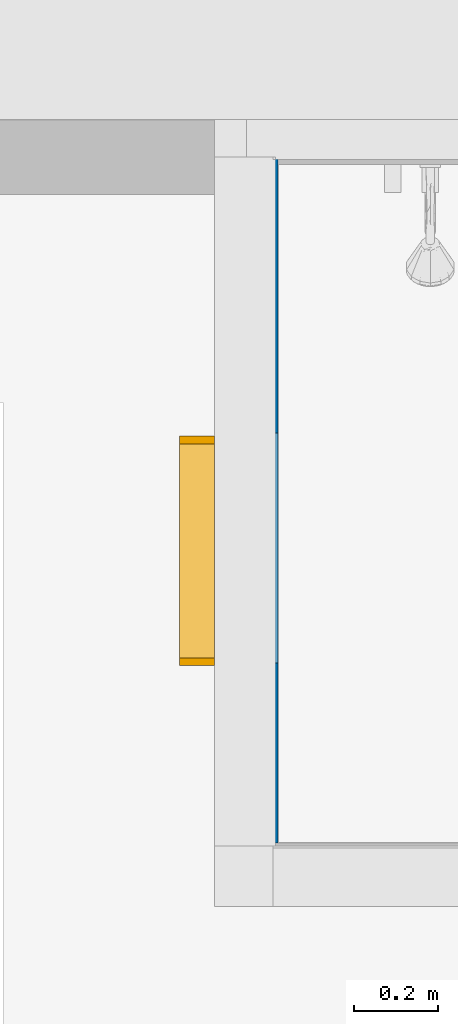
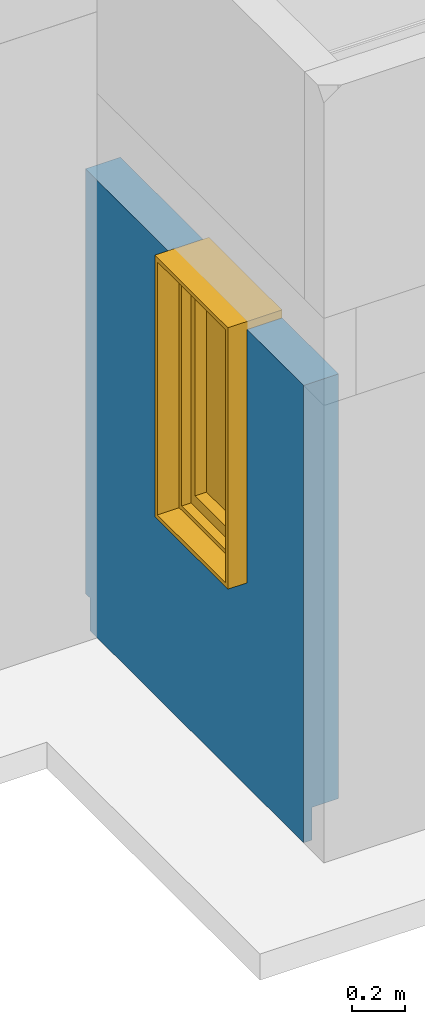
# One storey, part 4 of 10: 1 wall, 1 window, 1 opening.
"""IFC2X3 building model written with IfcOpenShell, lengths in metres."""

import ifcopenshell
import ifcopenshell.guid

model = None  # the IFC model being written
_history = None  # IfcOwnerHistory: only IFC2X3 demands one
_inside = {}  # id of a spatial element -> (the spatial element, [elements in it])
_under = {}  # id of a project, library or spatial element -> (it, [spatial elements below it])
_declared = {}  # id of a project -> (the project, [libraries it declares])
_typed = {}  # id of a type object -> (the type object, [elements of that type])
_made_of = {}  # id of a material, layer set ... -> (it, [elements and type objects made of it])


def new_model(schema):
    """Start an empty IFC model of exactly this schema.

    Asked for "IFC4X3", IfcOpenShell would pick the latest addendum, in which some entities
    have other attributes; the version numbers below select the first issue.
    IFC2X3 requires an IfcOwnerHistory on every rooted entity: one is made here for all.
    """
    global model, _history
    if schema == "IFC4X3":
        model = ifcopenshell.file(schema_version=(4, 3, 0, 0))
    else:
        model = ifcopenshell.file(schema=schema)
    _inside.clear()
    _under.clear()
    _declared.clear()
    _typed.clear()
    _made_of.clear()
    _history = None
    if model.schema == "IFC2X3":
        org = make("IfcOrganization", Name="unknown")
        user = make(
            "IfcPersonAndOrganization",
            ThePerson=make("IfcPerson", FamilyName="unknown"),
            TheOrganization=org,
        )
        app = make(
            "IfcApplication",
            ApplicationDeveloper=org,
            Version="unknown",
            ApplicationFullName="unknown",
            ApplicationIdentifier="unknown",
        )
        _history = make(
            "IfcOwnerHistory",
            OwningUser=user,
            OwningApplication=app,
            ChangeAction="ADDED",
            CreationDate=0,
        )
    return model


def make(cls, **values):
    """One entity of the class cls with the attributes given. An attribute that is None is left unset."""
    return model.create_entity(
        cls, **{name: value for name, value in values.items() if value is not None}
    )


def entity(cls, *values):
    """Any entity or typed value of the class cls, its attributes in the order of the schema. None: left unset."""
    e = model.create_entity(cls)
    for i, value in enumerate(values):
        if value is not None:
            e[i] = value
    return e


def rooted(cls, **values):
    """An entity with a GlobalId (a new one), such as an element, a storey or a relation."""
    return make(cls, GlobalId=ifcopenshell.guid.new(), OwnerHistory=_history, **values)


def si_unit(unit_type, name, prefix=None):
    """IfcSIUnit, for example si_unit("LENGTHUNIT", "METRE", prefix="MILLI")."""
    return make("IfcSIUnit", UnitType=unit_type, Prefix=prefix, Name=name)


def converted_unit(unit_type, name, factor, base, dimensions=None, offset=None):
    """IfcConversionBasedUnit, such as the inch: factor (a typed value) times the base unit."""
    return make(
        "IfcConversionBasedUnit"
        if offset is None
        else "IfcConversionBasedUnitWithOffset",
        ConversionOffset=offset,
        Dimensions=None
        if dimensions is None
        else entity("IfcDimensionalExponents", *dimensions),
        UnitType=unit_type,
        Name=name,
        ConversionFactor=make(
            "IfcMeasureWithUnit", ValueComponent=factor, UnitComponent=base
        ),
    )


def derived_unit(unit_type, elements):
    """IfcDerivedUnit: a product of units, each with its exponent."""
    return make(
        "IfcDerivedUnit",
        Elements=[
            make("IfcDerivedUnitElement", Unit=unit, Exponent=power)
            for unit, power in elements
        ],
        UnitType=unit_type,
    )


def assignment(units):
    """IfcUnitAssignment: the units of a project."""
    return None if units is None else make("IfcUnitAssignment", Units=units)


def point(xyz):
    """IfcCartesianPoint."""
    return None if xyz is None else make("IfcCartesianPoint", Coordinates=xyz)


def direction(xyz):
    """IfcDirection."""
    return None if xyz is None else make("IfcDirection", DirectionRatios=xyz)


def frame(location, z_axis=None, x_axis=None):
    """IfcAxis2Placement3D, a coordinate frame: its origin and axes. An axis left out is left unset."""
    return make(
        "IfcAxis2Placement3D",
        Location=point(location),
        Axis=direction(z_axis),
        RefDirection=direction(x_axis),
    )


def frame_2d(location, x_axis=None):
    """IfcAxis2Placement2D, a coordinate frame in the plane: its origin and x axis."""
    return make(
        "IfcAxis2Placement2D", Location=point(location), RefDirection=direction(x_axis)
    )


def origin():
    """The frame at (0, 0, 0) with its axes left unset."""
    return frame((0.0, 0.0, 0.0))


def place(relative_to, where):
    """IfcLocalPlacement: puts the frame where relative to a parent placement (None: the world)."""
    return make(
        "IfcLocalPlacement", PlacementRelTo=relative_to, RelativePlacement=where
    )


def context(
    kind, dimensions, precision=None, world=None, true_north=None, identifier=None
):
    """IfcGeometricRepresentationContext, for example the 3D "Model" context."""
    return make(
        "IfcGeometricRepresentationContext",
        ContextIdentifier=identifier,
        ContextType=kind,
        CoordinateSpaceDimension=dimensions,
        Precision=precision,
        WorldCoordinateSystem=world,
        TrueNorth=true_north,
    )


def subcontext(parent, identifier, kind, view, scale=None):
    """IfcGeometricRepresentationSubContext, for example "Body" below "Model"."""
    return make(
        "IfcGeometricRepresentationSubContext",
        ContextIdentifier=identifier,
        ContextType=kind,
        ParentContext=parent,
        TargetScale=scale,
        TargetView=view,
    )


def project(units=None, contexts=None):
    """IfcProject with its units and contexts."""
    return rooted(
        "IfcProject",
        Name="project",
        RepresentationContexts=contexts,
        UnitsInContext=assignment(units),
    )


def spatial(cls, under=None, at=None, **own):
    """A site, building, storey or space (cls), placed at a placement, below another one or the project."""
    s = rooted(cls, ObjectPlacement=at, **own)
    if under is not None:
        _under.setdefault(under.id(), (under, []))[1].append(s)
    return s


def profile(cls, at=None, kind="AREA", **sizes):
    """A parametric profile (cls). Its sizes go by their IFC names, for example OverallWidth=200.0."""
    return make(cls, ProfileType=kind, Position=at, **sizes)


def rectangle(**sizes):
    """IfcRectangleProfileDef."""
    return profile("IfcRectangleProfileDef", **sizes)


def extrude(swept, where, along, depth):
    """IfcExtrudedAreaSolid: the profile swept, set in the frame where, extruded along a direction by depth."""
    return make(
        "IfcExtrudedAreaSolid",
        SweptArea=swept,
        Position=where,
        ExtrudedDirection=direction(along),
        Depth=depth,
    )


def faces_of(points, faces, orient=None, outer=None):
    """IfcFace entities. A face is a list of loops; a loop is a list of indices into points, from 0.

    orient and outer hold one flag for each loop. By default every Orientation is true, the
    first loop of a face is its IfcFaceOuterBound and the others are IfcFaceBound.
    """
    made = []
    for i, loops in enumerate(faces):
        bounds = []
        for j, loop in enumerate(loops):
            is_outer = j == 0 if outer is None else outer[i][j]
            bounds.append(
                make(
                    "IfcFaceOuterBound" if is_outer else "IfcFaceBound",
                    Bound=make("IfcPolyLoop", Polygon=[points[k] for k in loop]),
                    Orientation=True if orient is None else orient[i][j],
                )
            )
        made.append(make("IfcFace", Bounds=bounds))
    return made


def faceted_brep(points, faces, orient=None, outer=None, voids=None):
    """IfcFacetedBrep: a solid bounded by flat faces; with voids (closed shells), ...WithVoids."""
    shared = [point(p) for p in points]
    hull = make("IfcClosedShell", CfsFaces=faces_of(shared, faces, orient, outer))
    if voids is None:
        return make("IfcFacetedBrep", Outer=hull)
    return make(
        "IfcFacetedBrepWithVoids",
        Outer=hull,
        Voids=[
            make(cls, CfsFaces=faces_of(shared, fs, o, b)) for cls, fs, o, b in voids
        ],
    )


def shape(context_of_items, identifier, shape_type, items):
    """IfcShapeRepresentation: the items that make up one representation, for example the "Body"."""
    return make(
        "IfcShapeRepresentation",
        ContextOfItems=context_of_items,
        RepresentationIdentifier=identifier,
        RepresentationType=shape_type,
        Items=items,
    )


def source(mapping_origin, context_of_items, identifier, shape_type, items):
    """IfcRepresentationMap: a shape defined once, which mapped items show again and again."""
    return make(
        "IfcRepresentationMap",
        MappingOrigin=mapping_origin,
        MappedRepresentation=shape(context_of_items, identifier, shape_type, items),
    )


def transform(
    local_origin,
    x_axis=None,
    y_axis=None,
    z_axis=None,
    scale=None,
    scale2=None,
    scale3=None,
    uniform=True,
):
    """IfcCartesianTransformationOperator3D, or its non-uniform kind. x_axis, y_axis, z_axis: its Axis1, 2, 3."""
    if uniform:
        return make(
            "IfcCartesianTransformationOperator3D",
            Axis1=direction(x_axis),
            Axis2=direction(y_axis),
            LocalOrigin=point(local_origin),
            Scale=scale,
            Axis3=direction(z_axis),
        )
    return make(
        "IfcCartesianTransformationOperator3DnonUniform",
        Axis1=direction(x_axis),
        Axis2=direction(y_axis),
        LocalOrigin=point(local_origin),
        Scale=scale,
        Axis3=direction(z_axis),
        Scale2=scale2,
        Scale3=scale3,
    )


def mapped(mapping_source, mapping_target):
    """IfcMappedItem: shows the shape of a source again, moved by a transform."""
    return make(
        "IfcMappedItem", MappingSource=mapping_source, MappingTarget=mapping_target
    )


def material(Name=None, Category=None):
    """IfcMaterial."""
    return make("IfcMaterial", Name=Name, Category=Category)


def material_list(materials):
    """IfcMaterialList."""
    return make("IfcMaterialList", Materials=materials)


def layer(
    of_material, thickness, ventilated=None, Name=None, Category=None, Priority=None
):
    """IfcMaterialLayer: one layer of a wall or slab, of a material (None: an air gap)."""
    return make(
        "IfcMaterialLayer",
        Material=of_material,
        LayerThickness=thickness,
        IsVentilated=ventilated,
        Name=Name,
        Category=Category,
        Priority=Priority,
    )


def layer_set(layers, Name=None):
    """IfcMaterialLayerSet."""
    return make("IfcMaterialLayerSet", MaterialLayers=layers, LayerSetName=Name)


def made_of(thing, what):
    """Note that an element or type object is made of a material, layer set ...; save() writes the relation."""
    if what is not None:
        _made_of.setdefault(what.id(), (what, []))[1].append(thing)
    return thing


def type_object(cls, material=None, **own):
    """A type object (cls), such as IfcWallType, which elements share."""
    return made_of(rooted(cls, **own), material)


def type_shapes(of_type, sources):
    """Give a type object the sources (RepresentationMaps) that its elements show as mapped items."""
    of_type.RepresentationMaps = sources


def element(
    cls,
    number,
    at=None,
    inside=None,
    cuts=None,
    type_object=None,
    material=None,
    context=None,
    identifier="Body",
    shape_type=None,
    held_by="IfcProductDefinitionShape",
    body=None,
    shapes=None,
    **own,
):
    """One element of the class cls, such as IfcWall. Its Tag is "e" and its number.

    at: its placement. inside: the storey or other place that contains it. cuts: it is an
    opening in that element (IfcRelVoidsElement). A single representation is given by context,
    identifier, shape_type and body (its items); several are given by shapes. held_by: the class
    of the entity that holds the representations. save() writes the other relations.
    """
    e = rooted(cls, Tag="e%d" % number, ObjectPlacement=at, **own)
    if body is not None:
        shapes = [shape(context, identifier, shape_type, body)]
    if shapes is not None:
        e.Representation = make(held_by, Representations=shapes)
    if inside is not None:
        _inside.setdefault(inside.id(), (inside, []))[1].append(e)
    if cuts is not None:
        rooted(
            "IfcRelVoidsElement", RelatingBuildingElement=cuts, RelatedOpeningElement=e
        )
    if type_object is not None:
        _typed.setdefault(type_object.id(), (type_object, []))[1].append(e)
    return made_of(e, material)


def fill(opening, filler):
    """IfcRelFillsElement: the door or window that sits in an opening."""
    return rooted(
        "IfcRelFillsElement",
        RelatingOpeningElement=opening,
        RelatedBuildingElement=filler,
    )


def aggregate(whole, parts):
    """IfcRelAggregates: a whole, such as a stair, and the parts it consists of."""
    return rooted("IfcRelAggregates", RelatingObject=whole, RelatedObjects=parts)


def save(model, path):
    """Write the relations noted so far, then the file.

    IfcRelAggregates (storeys below a building ...), IfcRelContainedInSpatialStructure (elements
    in a storey), IfcRelDefinesByType, IfcRelAssociatesMaterial and IfcRelDeclares: one each for
    every whole, place, type object, material and project.
    """
    for whole, parts in _under.values():
        aggregate(whole, parts)
    for where, things in _inside.values():
        rooted(
            "IfcRelContainedInSpatialStructure",
            RelatedElements=things,
            RelatingStructure=where,
        )
    for kind, things in _typed.values():
        rooted("IfcRelDefinesByType", RelatedObjects=things, RelatingType=kind)
    for what, things in _made_of.values():
        rooted("IfcRelAssociatesMaterial", RelatedObjects=things, RelatingMaterial=what)
    for by, libraries in _declared.values():
        rooted("IfcRelDeclares", RelatingContext=by, RelatedDefinitions=libraries)
    model.write(path)


model = new_model("IFC2X3")

# Units and contexts
model_context = context("Model", 3, precision=1e-05, world=origin(), true_north=direction((6.12303176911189e-17, 1.0)))
body_context = subcontext(model_context, "Body", "Model", "MODEL_VIEW")
ifc_project = project(units=[si_unit("LENGTHUNIT", "METRE"), si_unit("AREAUNIT", "SQUARE_METRE"), si_unit("VOLUMEUNIT", "CUBIC_METRE"), converted_unit("PLANEANGLEUNIT", "DEGREE", entity("IfcRatioMeasure", 0.0174532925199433), si_unit("PLANEANGLEUNIT", "RADIAN"), dimensions=[0, 0, 0, 0, 0, 0, 0]), si_unit("MASSUNIT", "GRAM", prefix="KILO"), derived_unit("MASSDENSITYUNIT", [(si_unit("MASSUNIT", "GRAM", prefix="KILO"), 1), (si_unit("LENGTHUNIT", "METRE"), -3)]), si_unit("TIMEUNIT", "SECOND"), si_unit("FREQUENCYUNIT", "HERTZ"), si_unit("THERMODYNAMICTEMPERATUREUNIT", "DEGREE_CELSIUS"), derived_unit("THERMALTRANSMITTANCEUNIT", [(si_unit("MASSUNIT", "GRAM", prefix="KILO"), 1), (si_unit("THERMODYNAMICTEMPERATUREUNIT", "KELVIN"), -1), (si_unit("TIMEUNIT", "SECOND"), -3)]), derived_unit("VOLUMETRICFLOWRATEUNIT", [(si_unit("LENGTHUNIT", "METRE"), 3), (si_unit("TIMEUNIT", "SECOND"), -1)]), si_unit("ELECTRICCURRENTUNIT", "AMPERE"), si_unit("ELECTRICVOLTAGEUNIT", "VOLT"), si_unit("POWERUNIT", "WATT"), si_unit("FORCEUNIT", "NEWTON", prefix="KILO"), si_unit("ILLUMINANCEUNIT", "LUX"), si_unit("LUMINOUSFLUXUNIT", "LUMEN"), si_unit("LUMINOUSINTENSITYUNIT", "CANDELA"), derived_unit("USERDEFINED", [(si_unit("MASSUNIT", "GRAM", prefix="KILO"), -1), (si_unit("LENGTHUNIT", "METRE"), -2), (si_unit("TIMEUNIT", "SECOND"), 3), (si_unit("LUMINOUSFLUXUNIT", "LUMEN"), 1)]), derived_unit("LINEARVELOCITYUNIT", [(si_unit("LENGTHUNIT", "METRE"), 1), (si_unit("TIMEUNIT", "SECOND"), -1)]), si_unit("PRESSUREUNIT", "PASCAL"), derived_unit("USERDEFINED", [(si_unit("LENGTHUNIT", "METRE"), -2), (si_unit("MASSUNIT", "GRAM", prefix="KILO"), 1), (si_unit("TIMEUNIT", "SECOND"), -2)])], contexts=[model_context])

# Site, building, storey
site_placement = place(None, origin())
site = spatial("IfcSite", under=ifc_project, at=site_placement, Name="Surface", CompositionType="ELEMENT")
building_placement = place(site_placement, origin())
building = spatial("IfcBuilding", under=site, at=building_placement, CompositionType="ELEMENT")
storey_placement = place(building_placement, origin())
storey = spatial("IfcBuildingStorey", under=building, at=storey_placement, Name="Nivel 0.0", CompositionType="ELEMENT", Elevation=0.0)

# Wall, opening, window
ifc_material_1 = material(Name="Revestimiento exterior  tipo siding")
ifc_layer_1 = layer(ifc_material_1, 0.012)
ifc_material_2 = material(Name="Aislación hidrófuga")
ifc_layer_2 = layer(ifc_material_2, 0.005)
ifc_material_3 = material(Name="OSB")
ifc_layer_3 = layer(ifc_material_3, 0.011)
ifc_material_4 = material(Name="Bastidor metálico+Aislación térmica")
ifc_layer_4 = layer(ifc_material_4, 0.1)
ifc_material_5 = material(Name="Placa roca de Yeso 12,5mm")
ifc_layer_5 = layer(ifc_material_5, 0.012)
ifc_material_6 = material(Name="Revestimiento Cerámico muro")
ifc_layer_6 = layer(ifc_material_6, 0.012)
ifc_layer_set = layer_set([ifc_layer_1, ifc_layer_2, ifc_layer_3, ifc_layer_4, ifc_layer_5, ifc_layer_6], Name="Basic Wall:Pe-SF-006")
wall_type = type_object("IfcWallType", Name="Basic Wall:Pe-SF-006", PredefinedType="STANDARD", material=ifc_layer_set)
wall_placement = place(storey_placement, frame((-6.97601368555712, -1.72354870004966, -0.175), z_axis=(0.0, 0.0, 1.0), x_axis=(0.0, -1.0, 0.0)))
wall = element("IfcWall", 1, at=wall_placement, inside=storey, type_object=wall_type, Name="Basic Wall:Pe-SF-006", ObjectType="Basic Wall:Pe-SF-006", context=body_context, shape_type="Brep", body=[
    faceted_brep([(1.21067744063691, -0.0759999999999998, 2.1), (1.21067744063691, -0.0759999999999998, 0.937), (0.660677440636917, -0.0759999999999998, 0.937), (0.660677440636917, -0.0759999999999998, 2.1), (0.0, -0.076, 2.1), (0.0, -0.076, 0.15), (0.0339999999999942, -0.0759999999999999, 0.15), (0.0339999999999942, -0.0759999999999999, 0.0), (0.0889999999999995, -0.0759999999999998, 0.0), (1.64123662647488, -0.0760000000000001, 0.0), (1.64123662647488, -0.0760000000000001, 2.1), (1.21067744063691, 0.0760000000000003, 0.937), (1.21067744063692, 0.0760000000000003, 2.1), (1.64123662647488, 0.076, 2.1), (1.64123662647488, 0.076, 0.15), (0.0, 0.0760000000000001, 0.15), (0.0, 0.0760000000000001, 0.175), (0.0, 0.0760000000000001, 2.1), (0.0180000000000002, 0.0760000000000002, 2.1), (0.660677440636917, 0.0760000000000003, 2.1), (0.660677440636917, 0.0760000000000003, 0.937), (0.0339999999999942, -0.0399999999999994, 0.0), (1.64123662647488, -0.0399999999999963, 0.0), (1.21067744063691, 0.0640000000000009, 2.1), (0.0, 0.0640000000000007, 2.1), (0.660677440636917, 0.0640000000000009, 2.1), (1.64123662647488, -0.0399999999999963, 0.15), (0.0339999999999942, -0.0399999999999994, 0.15)], [[[0, 1, 2, 3, 4, 5, 6, 7, 8, 9, 10]], [[11, 12, 13, 14, 15, 16, 17, 18, 19, 20]], [[9, 8, 7, 21, 22]], [[0, 10, 13, 12, 23]], [[4, 24, 17, 16, 15, 5]], [[11, 1, 0, 23, 12]], [[2, 20, 19, 25, 3]], [[1, 11, 20, 2]], [[26, 27, 6, 5, 15, 14]], [[21, 27, 26, 22]], [[13, 10, 9, 22, 26, 14]], [[27, 21, 7, 6]], [[17, 24, 4, 3, 25, 19, 18]]]),
])
opening_placement = place(wall_placement, frame((1.21067744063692, 0.0759999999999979, 0.937)))
opening = element("IfcOpeningElement", 2, at=opening_placement, cuts=wall, Name="Ventana batiente horizontal V2:V2:1", ObjectType="Opening", context=body_context, shape_type="SweptSolid", body=[
    extrude(rectangle(XDim=1.2, YDim=0.549999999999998, at=frame_2d((0.6, 0.274999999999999), x_axis=(1.0, 0.0))), frame((0.0, 0.0, 0.0), z_axis=(0.0, -1.0, 0.0), x_axis=(0.0, 0.0, 1.0)), (0.0, 0.0, 1.0), 0.152),
])
ifc_material_7 = material(Name="Chapa plegada")
ifc_material_8 = material(Name="Glass")
ifc_material_9 = material(Name="Aluminum")
ifc_material_list_1 = material_list([ifc_material_7, ifc_material_8, ifc_material_9])
ifc_material_list_2 = material_list([ifc_material_7, ifc_material_8, ifc_material_9])
window_style = type_object("IfcWindowStyle", Name="V2", ConstructionType="NOTDEFINED", OperationType="NOTDEFINED", ParameterTakesPrecedence=False, Sizeable=False, material=ifc_material_list_2)
shared_shape = source(origin(), body_context, "Body", "Brep", [
    faceted_brep([(0.00528638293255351, 0.140999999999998, 1.124), (0.00528638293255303, 0.000999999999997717, 1.124), (0.0052863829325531, 0.000999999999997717, 0.0), (0.00528638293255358, 0.140999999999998, 0.0), (-0.0327136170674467, 0.000999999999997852, -0.0379999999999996), (0.517286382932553, 0.000999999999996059, -0.0379999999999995), (0.517286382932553, 0.000999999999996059, 1.162), (-0.0327136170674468, 0.000999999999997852, 1.162), (0.479286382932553, 0.000999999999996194, 1.124), (0.479286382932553, 0.000999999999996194, 0.0), (0.479286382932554, 0.140999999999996, 0.0), (0.479286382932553, 0.140999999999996, 1.124), (-0.0137136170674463, 0.140999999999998, 1.143), (0.498286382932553, 0.140999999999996, 1.143), (0.498286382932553, 0.140999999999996, -0.0189999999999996), (-0.0137136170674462, 0.140999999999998, -0.0189999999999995), (-0.013713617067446, 0.235999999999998, 1.143), (-0.013713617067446, 0.235999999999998, -0.0189999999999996), (0.498286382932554, 0.235999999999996, -0.0189999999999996), (0.498286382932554, 0.235999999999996, 1.143), (-0.032713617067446, 0.235999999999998, 1.162), (0.517286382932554, 0.235999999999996, 1.162), (0.517286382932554, 0.235999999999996, -0.0379999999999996), (-0.032713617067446, 0.235999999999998, -0.0379999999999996)], [[[0, 1, 2, 3]], [[4, 5, 6, 7], [1, 8, 9, 2]], [[3, 2, 9, 10]], [[3, 10, 11, 0], [12, 13, 14, 15]], [[16, 12, 15, 17]], [[17, 15, 14, 18]], [[17, 18, 19, 16], [20, 21, 22, 23]], [[7, 20, 23, 4]], [[4, 23, 22, 5]], [[10, 9, 8, 11]], [[18, 14, 13, 19]], [[5, 22, 21, 6]], [[11, 8, 1, 0]], [[19, 13, 12, 16]], [[6, 21, 20, 7]]], outer=[[True], [True, False], [True], [False, True], [True], [True], [False, True], [True], [True], [True], [True], [True], [True], [True], [True]]),
    faceted_brep([(0.0499999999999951, 0.0499999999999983, 1.04999999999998), (0.449999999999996, 0.049999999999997, 1.04999999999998), (0.449999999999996, 0.049999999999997, 0.0500000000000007), (0.0499999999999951, 0.0499999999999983, 0.0500000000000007), (0.449999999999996, 0.044999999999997, 1.04999999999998), (0.449999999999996, 0.044999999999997, 0.0500000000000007), (0.0499999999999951, 0.0449999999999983, 0.0500000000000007), (0.0499999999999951, 0.0449999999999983, 1.04999999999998)], [[[0, 1, 2, 3]], [[4, 5, 2, 1]], [[5, 6, 3, 2]], [[6, 7, 0, 3]], [[7, 6, 5, 4]], [[7, 4, 1, 0]]]),
    faceted_brep([(0.0, 0.0, 1.1), (0.0, 0.0, 0.0), (0.499999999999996, 0.0, 0.0), (0.499999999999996, 0.0, 1.1), (0.0499999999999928, 0.0, 1.04999999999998), (0.449999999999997, 0.0, 1.04999999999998), (0.449999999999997, 0.0, 0.0500000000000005), (0.0499999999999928, 0.0, 0.0500000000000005), (0.0, 0.0999999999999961, 1.1), (0.0, 0.0999999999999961, 0.0), (0.499999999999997, 0.0999999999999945, 0.0), (0.499999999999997, 0.0999999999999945, 1.1), (0.449999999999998, 0.0999999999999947, 1.04999999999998), (0.449999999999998, 0.0999999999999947, 0.0500000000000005), (0.0499999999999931, 0.099999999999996, 0.0500000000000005), (0.0499999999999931, 0.099999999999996, 1.04999999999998)], [[[0, 1, 2, 3], [4, 5, 6, 7]], [[1, 0, 8, 9]], [[2, 1, 9, 10]], [[3, 2, 10, 11]], [[6, 5, 12, 13]], [[7, 6, 13, 14]], [[4, 7, 14, 15]], [[15, 14, 13, 12], [8, 11, 10, 9]], [[0, 3, 11, 8]], [[5, 4, 15, 12]]], outer=[[True, False], [True], [True], [True], [True], [True], [True], [False, True], [True], [True]]),
])
type_shapes(window_style, [shared_shape])
window_placement = place(opening_placement, frame((-0.0261774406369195, 0.0, 0.0379999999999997), z_axis=(0.0, 0.0, 1.0), x_axis=(-1.0, 0.0, 0.0)))
window = element("IfcWindow", 3, at=window_placement, inside=storey, type_object=window_style, material=ifc_material_list_1, Name="Ventana batiente horizontal V2:V2", ObjectType="Ventana batiente horizontal V2:V2", OverallHeight=1.2, OverallWidth=0.549999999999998, context=body_context, shape_type="MappedRepresentation", body=[
    mapped(shared_shape, transform((0.0, 0.0, 0.0), scale=1.0)),
])
fill(opening, window)

save(model, "model.ifc")
